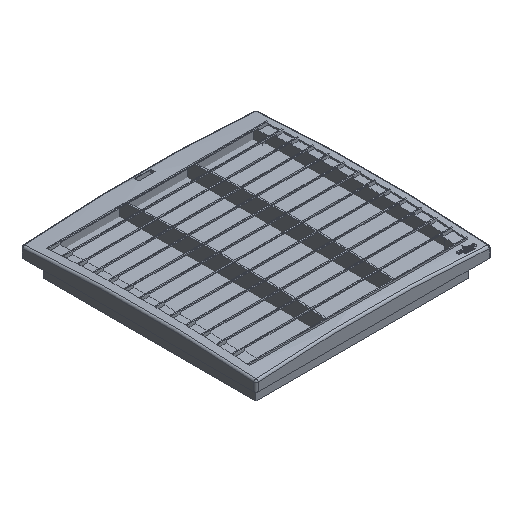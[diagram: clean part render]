
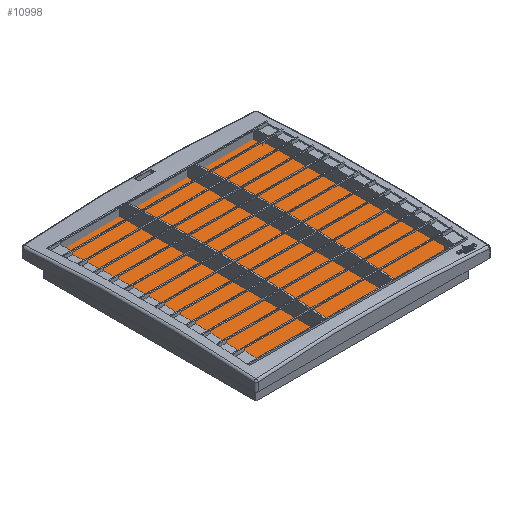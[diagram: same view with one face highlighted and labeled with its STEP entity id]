
A CAD part, isometric view. The second image highlights one B-rep face of the part: STEP entity #10998.
In plain terms, the highlighted planar face has unit normal (0, 0, 1).
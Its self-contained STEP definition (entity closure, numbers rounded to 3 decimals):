
#315 = ORIENTED_EDGE ( 'NONE', *, *, #15083, .F. ) ;
#1141 = ORIENTED_EDGE ( 'NONE', *, *, #4404, .F. ) ;
#1312 = LINE ( 'NONE', #1567, #16461 ) ;
#1567 = CARTESIAN_POINT ( 'NONE',  ( 303., -303., 2. ) ) ;
#3001 = EDGE_CURVE ( 'NONE', #15184, #7285, #9317, .T. ) ;
#3541 = CARTESIAN_POINT ( 'NONE',  ( 303., 12., 2. ) ) ;
#4004 = CARTESIAN_POINT ( 'NONE',  ( -12., 12., 2. ) ) ;
#4025 = DIRECTION ( 'NONE',  ( 0., 0., -1. ) ) ;
#4404 = EDGE_CURVE ( 'NONE', #4470, #15184, #5505, .T. ) ;
#4470 = VERTEX_POINT ( 'NONE', #4004 ) ;
#5060 = VECTOR ( 'NONE', #12679, 1000. ) ;
#5487 = EDGE_CURVE ( 'NONE', #7285, #7982, #1312, .T. ) ;
#5505 = LINE ( 'NONE', #6922, #15739 ) ;
#5881 = ORIENTED_EDGE ( 'NONE', *, *, #5487, .F. ) ;
#6922 = CARTESIAN_POINT ( 'NONE',  ( 303., 12., 2. ) ) ;
#7140 = AXIS2_PLACEMENT_3D ( 'NONE', #12076, #4025, #13417 ) ;
#7285 = VERTEX_POINT ( 'NONE', #11045 ) ;
#7982 = VERTEX_POINT ( 'NONE', #15585 ) ;
#8077 = DIRECTION ( 'NONE',  ( 1., 0., 0. ) ) ;
#8989 = CARTESIAN_POINT ( 'NONE',  ( 303., 12., 2. ) ) ;
#9317 = LINE ( 'NONE', #8989, #16008 ) ;
#10315 = FACE_OUTER_BOUND ( 'NONE', #13072, .T. ) ;
#10998 = ADVANCED_FACE ( 'NONE', ( #10315 ), #14627, .F. ) ;
#11016 = DIRECTION ( 'NONE',  ( 0., -1., 0. ) ) ;
#11045 = CARTESIAN_POINT ( 'NONE',  ( 303., -303., 2. ) ) ;
#11247 = CARTESIAN_POINT ( 'NONE',  ( -12., 12., 2. ) ) ;
#12076 = CARTESIAN_POINT ( 'NONE',  ( 145.5, -145.5, 2. ) ) ;
#12679 = DIRECTION ( 'NONE',  ( 0., 1., 0. ) ) ;
#13072 = EDGE_LOOP ( 'NONE', ( #15743, #1141, #315, #5881 ) ) ;
#13417 = DIRECTION ( 'NONE',  ( -1., 0., 0. ) ) ;
#14627 = PLANE ( 'NONE',  #7140 ) ;
#15083 = EDGE_CURVE ( 'NONE', #7982, #4470, #15694, .T. ) ;
#15184 = VERTEX_POINT ( 'NONE', #3541 ) ;
#15585 = CARTESIAN_POINT ( 'NONE',  ( -12., -303., 2. ) ) ;
#15694 = LINE ( 'NONE', #11247, #5060 ) ;
#15739 = VECTOR ( 'NONE', #8077, 1000. ) ;
#15743 = ORIENTED_EDGE ( 'NONE', *, *, #3001, .F. ) ;
#16008 = VECTOR ( 'NONE', #11016, 1000. ) ;
#16232 = DIRECTION ( 'NONE',  ( -1., 0., 0. ) ) ;
#16461 = VECTOR ( 'NONE', #16232, 1000. ) ;
